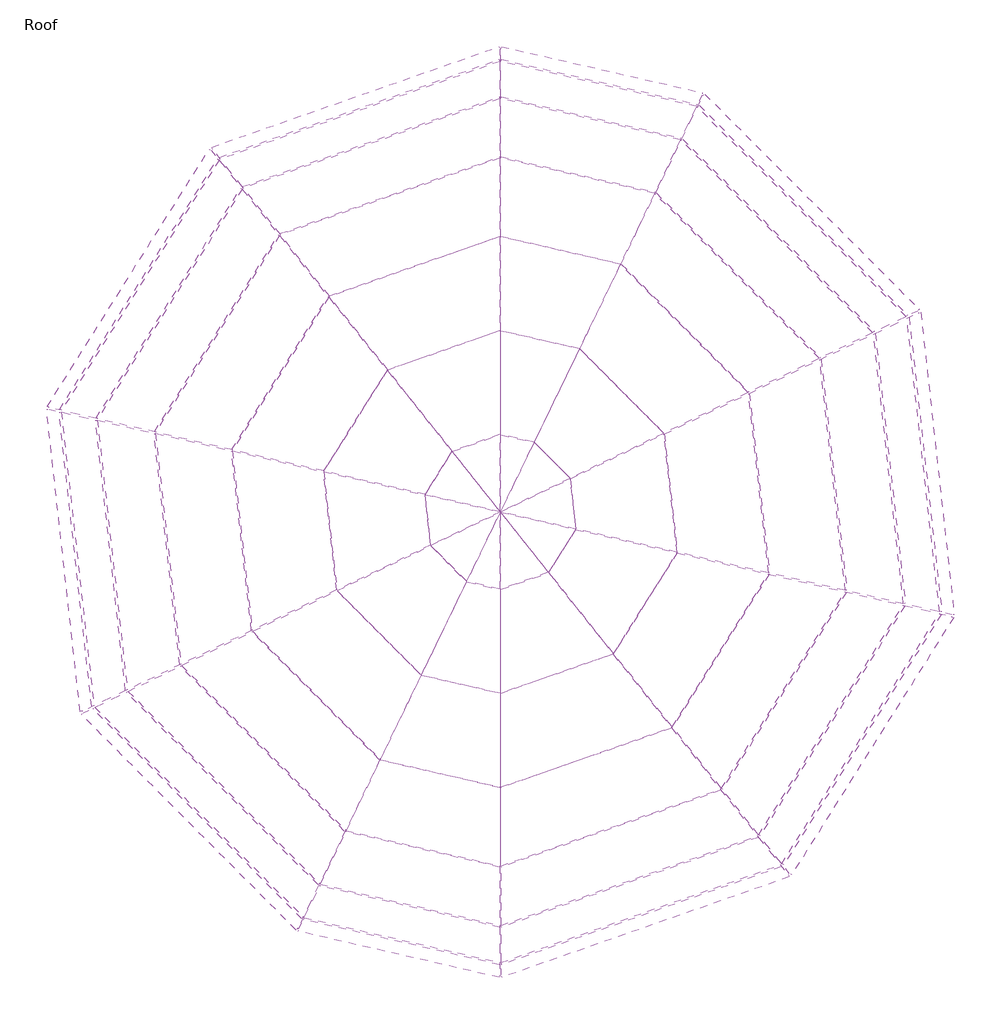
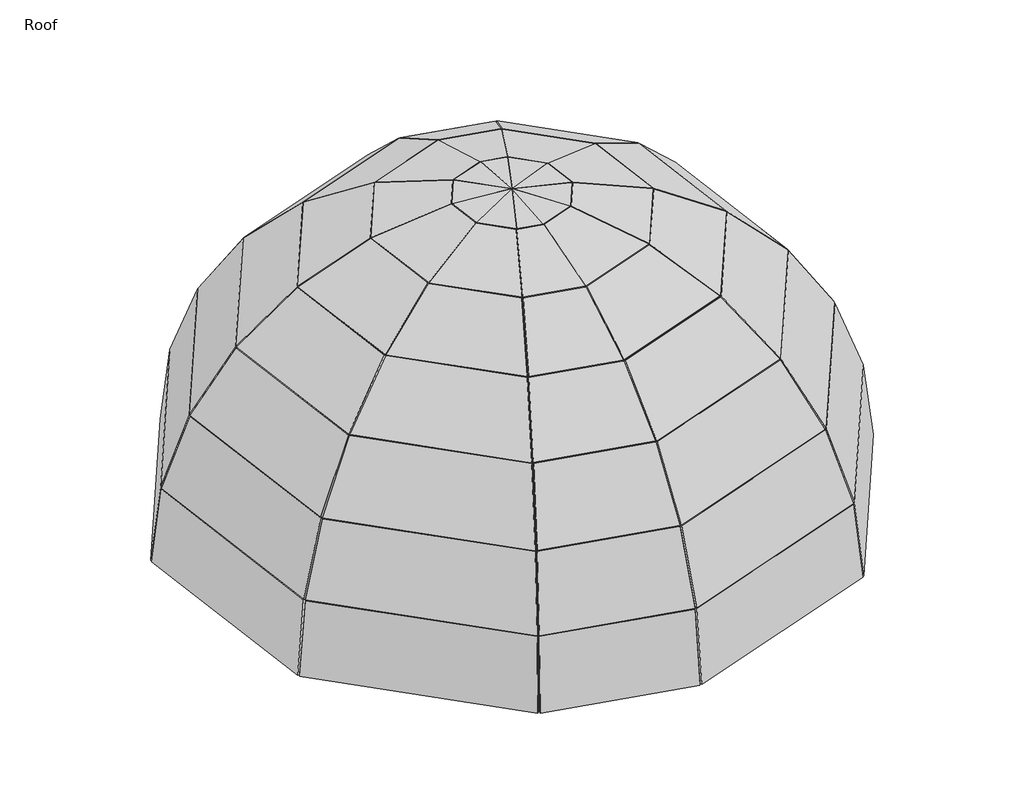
# One storey: 70 plates.
"""IFC4 building model written with IfcOpenShell, lengths in millimetres."""

import ifcopenshell
import ifcopenshell.guid

model = None  # the IFC model being written
_history = None  # IfcOwnerHistory: only IFC2X3 demands one
_inside = {}  # id of a spatial element -> (the spatial element, [elements in it])
_under = {}  # id of a project, library or spatial element -> (it, [spatial elements below it])
_declared = {}  # id of a project -> (the project, [libraries it declares])
_typed = {}  # id of a type object -> (the type object, [elements of that type])
_made_of = {}  # id of a material, layer set ... -> (it, [elements and type objects made of it])


def new_model(schema):
    """Start an empty IFC model of exactly this schema.

    Asked for "IFC4X3", IfcOpenShell would pick the latest addendum, in which some entities
    have other attributes; the version numbers below select the first issue.
    IFC2X3 requires an IfcOwnerHistory on every rooted entity: one is made here for all.
    """
    global model, _history
    if schema == "IFC4X3":
        model = ifcopenshell.file(schema_version=(4, 3, 0, 0))
    else:
        model = ifcopenshell.file(schema=schema)
    _inside.clear()
    _under.clear()
    _declared.clear()
    _typed.clear()
    _made_of.clear()
    _history = None
    if model.schema == "IFC2X3":
        org = make("IfcOrganization", Name="unknown")
        user = make(
            "IfcPersonAndOrganization",
            ThePerson=make("IfcPerson", FamilyName="unknown"),
            TheOrganization=org,
        )
        app = make(
            "IfcApplication",
            ApplicationDeveloper=org,
            Version="unknown",
            ApplicationFullName="unknown",
            ApplicationIdentifier="unknown",
        )
        _history = make(
            "IfcOwnerHistory",
            OwningUser=user,
            OwningApplication=app,
            ChangeAction="ADDED",
            CreationDate=0,
        )
    return model


def make(cls, **values):
    """One entity of the class cls with the attributes given. An attribute that is None is left unset."""
    return model.create_entity(
        cls, **{name: value for name, value in values.items() if value is not None}
    )


def rooted(cls, **values):
    """An entity with a GlobalId (a new one), such as an element, a storey or a relation."""
    return make(cls, GlobalId=ifcopenshell.guid.new(), OwnerHistory=_history, **values)


def si_unit(unit_type, name, prefix=None):
    """IfcSIUnit, for example si_unit("LENGTHUNIT", "METRE", prefix="MILLI")."""
    return make("IfcSIUnit", UnitType=unit_type, Prefix=prefix, Name=name)


def assignment(units):
    """IfcUnitAssignment: the units of a project."""
    return None if units is None else make("IfcUnitAssignment", Units=units)


def point(xyz):
    """IfcCartesianPoint."""
    return None if xyz is None else make("IfcCartesianPoint", Coordinates=xyz)


def direction(xyz):
    """IfcDirection."""
    return None if xyz is None else make("IfcDirection", DirectionRatios=xyz)


def frame(location, z_axis=None, x_axis=None):
    """IfcAxis2Placement3D, a coordinate frame: its origin and axes. An axis left out is left unset."""
    return make(
        "IfcAxis2Placement3D",
        Location=point(location),
        Axis=direction(z_axis),
        RefDirection=direction(x_axis),
    )


def origin():
    """The frame at (0, 0, 0) with its axes left unset."""
    return frame((0.0, 0.0, 0.0))


def place(relative_to, where):
    """IfcLocalPlacement: puts the frame where relative to a parent placement (None: the world)."""
    return make(
        "IfcLocalPlacement", PlacementRelTo=relative_to, RelativePlacement=where
    )


def context(
    kind, dimensions, precision=None, world=None, true_north=None, identifier=None
):
    """IfcGeometricRepresentationContext, for example the 3D "Model" context."""
    return make(
        "IfcGeometricRepresentationContext",
        ContextIdentifier=identifier,
        ContextType=kind,
        CoordinateSpaceDimension=dimensions,
        Precision=precision,
        WorldCoordinateSystem=world,
        TrueNorth=true_north,
    )


def project(units=None, contexts=None):
    """IfcProject with its units and contexts."""
    return rooted(
        "IfcProject",
        Name="project",
        RepresentationContexts=contexts,
        UnitsInContext=assignment(units),
    )


def spatial(cls, under=None, at=None, **own):
    """A site, building, storey or space (cls), placed at a placement, below another one or the project."""
    s = rooted(cls, ObjectPlacement=at, **own)
    if under is not None:
        _under.setdefault(under.id(), (under, []))[1].append(s)
    return s


def polyline(points):
    """IfcPolyline through the points."""
    return make("IfcPolyline", Points=[point(p) for p in points])


def outline(outer, holes=None, kind="AREA"):
    """IfcArbitraryClosedProfileDef: a profile drawn as a closed curve; with holes, ...WithVoids."""
    if holes is None:
        return make("IfcArbitraryClosedProfileDef", ProfileType=kind, OuterCurve=outer)
    return make(
        "IfcArbitraryProfileDefWithVoids",
        ProfileType=kind,
        OuterCurve=outer,
        InnerCurves=holes,
    )


def extrude(swept, where, along, depth):
    """IfcExtrudedAreaSolid: the profile swept, set in the frame where, extruded along a direction by depth."""
    return make(
        "IfcExtrudedAreaSolid",
        SweptArea=swept,
        Position=where,
        ExtrudedDirection=direction(along),
        Depth=depth,
    )


def shape(context_of_items, identifier, shape_type, items):
    """IfcShapeRepresentation: the items that make up one representation, for example the "Body"."""
    return make(
        "IfcShapeRepresentation",
        ContextOfItems=context_of_items,
        RepresentationIdentifier=identifier,
        RepresentationType=shape_type,
        Items=items,
    )


def source(mapping_origin, context_of_items, identifier, shape_type, items):
    """IfcRepresentationMap: a shape defined once, which mapped items show again and again."""
    return make(
        "IfcRepresentationMap",
        MappingOrigin=mapping_origin,
        MappedRepresentation=shape(context_of_items, identifier, shape_type, items),
    )


def transform(
    local_origin,
    x_axis=None,
    y_axis=None,
    z_axis=None,
    scale=None,
    scale2=None,
    scale3=None,
    uniform=True,
):
    """IfcCartesianTransformationOperator3D, or its non-uniform kind. x_axis, y_axis, z_axis: its Axis1, 2, 3."""
    if uniform:
        return make(
            "IfcCartesianTransformationOperator3D",
            Axis1=direction(x_axis),
            Axis2=direction(y_axis),
            LocalOrigin=point(local_origin),
            Scale=scale,
            Axis3=direction(z_axis),
        )
    return make(
        "IfcCartesianTransformationOperator3DnonUniform",
        Axis1=direction(x_axis),
        Axis2=direction(y_axis),
        LocalOrigin=point(local_origin),
        Scale=scale,
        Axis3=direction(z_axis),
        Scale2=scale2,
        Scale3=scale3,
    )


def mapped(mapping_source, mapping_target):
    """IfcMappedItem: shows the shape of a source again, moved by a transform."""
    return make(
        "IfcMappedItem", MappingSource=mapping_source, MappingTarget=mapping_target
    )


def made_of(thing, what):
    """Note that an element or type object is made of a material, layer set ...; save() writes the relation."""
    if what is not None:
        _made_of.setdefault(what.id(), (what, []))[1].append(thing)
    return thing


def element(
    cls,
    number,
    at=None,
    inside=None,
    cuts=None,
    type_object=None,
    material=None,
    context=None,
    identifier="Body",
    shape_type=None,
    held_by="IfcProductDefinitionShape",
    body=None,
    shapes=None,
    **own,
):
    """One element of the class cls, such as IfcWall. Its Tag is "e" and its number.

    at: its placement. inside: the storey or other place that contains it. cuts: it is an
    opening in that element (IfcRelVoidsElement). A single representation is given by context,
    identifier, shape_type and body (its items); several are given by shapes. held_by: the class
    of the entity that holds the representations. save() writes the other relations.
    """
    e = rooted(cls, Tag="e%d" % number, ObjectPlacement=at, **own)
    if body is not None:
        shapes = [shape(context, identifier, shape_type, body)]
    if shapes is not None:
        e.Representation = make(held_by, Representations=shapes)
    if inside is not None:
        _inside.setdefault(inside.id(), (inside, []))[1].append(e)
    if cuts is not None:
        rooted(
            "IfcRelVoidsElement", RelatingBuildingElement=cuts, RelatedOpeningElement=e
        )
    if type_object is not None:
        _typed.setdefault(type_object.id(), (type_object, []))[1].append(e)
    return made_of(e, material)


def aggregate(whole, parts):
    """IfcRelAggregates: a whole, such as a stair, and the parts it consists of."""
    return rooted("IfcRelAggregates", RelatingObject=whole, RelatedObjects=parts)


def save(model, path):
    """Write the relations noted so far, then the file.

    IfcRelAggregates (storeys below a building ...), IfcRelContainedInSpatialStructure (elements
    in a storey), IfcRelDefinesByType, IfcRelAssociatesMaterial and IfcRelDeclares: one each for
    every whole, place, type object, material and project.
    """
    for whole, parts in _under.values():
        aggregate(whole, parts)
    for where, things in _inside.values():
        rooted(
            "IfcRelContainedInSpatialStructure",
            RelatedElements=things,
            RelatingStructure=where,
        )
    for kind, things in _typed.values():
        rooted("IfcRelDefinesByType", RelatedObjects=things, RelatingType=kind)
    for what, things in _made_of.values():
        rooted("IfcRelAssociatesMaterial", RelatedObjects=things, RelatingMaterial=what)
    for by, libraries in _declared.values():
        rooted("IfcRelDeclares", RelatingContext=by, RelatedDefinitions=libraries)
    model.write(path)


def system_panel_glazed_518a6dcc(model_context):
    return source(origin(), model_context, "Body", "SweptSolid", [
        extrude(outline(polyline([(0.0, -1508.6830283), (0.0, 1508.6830283), (1066.0091554, 1467.6133237), (1066.0091554, -1467.6133237), (0.0, -1508.6830283)])), frame((0.0, -49.5, 0.0), z_axis=(0.0, 1.0, 0.0), x_axis=(0.0, 0.0, 1.0)), (0.0, 0.0, 1.0), 25.0),
    ])


def system_panel_glazed_70fdd375(model_context):
    return source(origin(), model_context, "Body", "SweptSolid", [
        extrude(outline(polyline([(0.0, -1022.9539556), (0.0, 1022.9539556), (1066.4364867, 995.1068757), (1066.4364867, -995.1068757), (0.0, -1022.9539556)])), frame((0.0, -49.5, 0.0), z_axis=(0.0, 1.0, 0.0), x_axis=(0.0, 0.0, 1.0)), (0.0, 0.0, 1.0), 25.0),
    ])


def system_panel_glazed_56d5725f(model_context):
    return source(origin(), model_context, "Body", "SweptSolid", [
        extrude(outline(polyline([(0.0, -1467.6133237), (0.0, 1467.6133237), (1059.9187468, 1346.640227), (1059.9187468, -1346.640227), (0.0, -1467.6133237)])), frame((0.0, -49.5, 0.0), z_axis=(0.0, 1.0, 0.0), x_axis=(0.0, 0.0, 1.0)), (0.0, 0.0, 1.0), 25.0),
    ])


def system_panel_glazed_7670c416(model_context):
    return source(origin(), model_context, "Body", "SweptSolid", [
        extrude(outline(polyline([(0.0, -995.1068757), (0.0, 995.1068757), (1063.6419132, 913.0817547), (1063.6419132, -913.0817547), (0.0, -995.1068757)])), frame((0.0, -49.5, 0.0), z_axis=(0.0, 1.0, 0.0), x_axis=(0.0, 0.0, 1.0)), (0.0, 0.0, 1.0), 25.0),
    ])


def system_panel_glazed_8b0493d8(model_context):
    return source(origin(), model_context, "Body", "SweptSolid", [
        extrude(outline(polyline([(0.0, -1346.640227), (0.0, 1346.640227), (1048.958325, 1152.3500512), (1048.958325, -1152.3500512), (0.0, -1346.640227)])), frame((0.0, -49.5, 0.0), z_axis=(0.0, 1.0, 0.0), x_axis=(0.0, 0.0, 1.0)), (0.0, 0.0, 1.0), 25.0),
    ])


def system_panel_glazed_59e38239(model_context):
    return source(origin(), model_context, "Body", "SweptSolid", [
        extrude(outline(polyline([(0.0, -913.0817547), (0.0, 913.0817547), (1058.634739, 781.344405), (1058.634739, -781.344405), (0.0, -913.0817547)])), frame((0.0, -49.5, 0.0), z_axis=(0.0, 1.0, 0.0), x_axis=(0.0, 0.0, 1.0)), (0.0, 0.0, 1.0), 25.0),
    ])


def system_panel_glazed_5a9b0819(model_context):
    return source(origin(), model_context, "Body", "SweptSolid", [
        extrude(outline(polyline([(0.0, -1152.3500512), (0.0, 1152.3500512), (1035.3734654, 895.3208171), (1035.3734654, -895.3208171), (0.0, -1152.3500512)])), frame((0.0, -49.5, 0.0), z_axis=(0.0, 1.0, 0.0), x_axis=(0.0, 0.0, 1.0)), (0.0, 0.0, 1.0), 25.0),
    ])


def system_panel_glazed_ad0206cb(model_context):
    return source(origin(), model_context, "Body", "SweptSolid", [
        extrude(outline(polyline([(0.0, -781.344405), (0.0, 781.344405), (1052.4683812, 607.0671931), (1052.4683812, -607.0671931), (0.0, -781.344405)])), frame((0.0, -49.5, 0.0), z_axis=(0.0, 1.0, 0.0), x_axis=(0.0, 0.0, 1.0)), (0.0, 0.0, 1.0), 25.0),
    ])


def system_panel_glazed_5beef723(model_context):
    return source(origin(), model_context, "Body", "SweptSolid", [
        extrude(outline(polyline([(0.0, -895.3208171), (0.0, 895.3208171), (1022.0392401, 589.5463385), (1022.0392401, -589.5463385), (0.0, -895.3208171)])), frame((0.0, -49.5, 0.0), z_axis=(0.0, 1.0, 0.0), x_axis=(0.0, 0.0, 1.0)), (0.0, 0.0, 1.0), 25.0),
    ])


def system_panel_glazed_f957fdb4(model_context):
    return source(origin(), model_context, "Body", "SweptSolid", [
        extrude(outline(polyline([(0.0, -607.0671931), (0.0, 607.0671931), (1046.4593025, 399.7385452), (1046.4593025, -399.7385452), (0.0, -607.0671931)])), frame((0.0, -49.5, 0.0), z_axis=(0.0, 1.0, 0.0), x_axis=(0.0, 0.0, 1.0)), (0.0, 0.0, 1.0), 25.0),
    ])


def system_panel_glazed_c9ff7014(model_context):
    return source(origin(), model_context, "Body", "SweptSolid", [
        extrude(outline(polyline([(0.0, -589.5463385), (0.0, 589.5463385), (1011.8817869, 251.6743371), (1011.8817869, -251.6743371), (0.0, -589.5463385)])), frame((0.0, -49.5, 0.0), z_axis=(0.0, 1.0, 0.0), x_axis=(0.0, 0.0, 1.0)), (0.0, 0.0, 1.0), 25.0),
    ])


def system_panel_glazed_714dea7d(model_context):
    return source(origin(), model_context, "Body", "SweptSolid", [
        extrude(outline(polyline([(0.0, -399.7385452), (0.0, 399.7385452), (1041.9112285, 170.6463543), (1041.9112285, -170.6463543), (0.0, -399.7385452)])), frame((0.0, -49.5, 0.0), z_axis=(0.0, 1.0, 0.0), x_axis=(0.0, 0.0, 1.0)), (0.0, 0.0, 1.0), 25.0),
    ])


def system_panel_glazed_929f0f65(model_context):
    return source(origin(), model_context, "Body", "SweptSolid", [
        extrude(outline(polyline([(0.0, -237.6758315), (165.5137224, 237.6820289), (763.3943351, -236.0989329), (762.8431207, -237.6820289), (0.0, -237.6758315)])), frame((0.0, -49.5, 0.0), z_axis=(0.0, 1.0, 0.0), x_axis=(0.0, 0.0, 1.0)), (0.0, 0.0, 1.0), 25.0),
    ])


def system_panel_glazed_81826dec(model_context):
    return source(origin(), model_context, "Body", "SweptSolid", [
        extrude(outline(polyline([(0.0, 102.984894), (425.467544, 371.9407581), (598.3886795, -371.0450478), (596.9717345, -371.9407581), (0.0, 102.984894)])), frame((0.0, -49.5, 0.0), z_axis=(0.0, 1.0, 0.0), x_axis=(0.0, 0.0, 1.0)), (0.0, 0.0, 1.0), 25.0),
    ])


def system_panel_glazed_f4372532(model_context):
    return source(origin(), model_context, "Body", "SweptSolid", [
        extrude(outline(polyline([(169.4405073, -371.8007484), (0.0, 371.9865473), (500.2473012, 316.1965354), (171.1064932, -371.9865473), (169.4405073, -371.8007484)])), frame((0.0, -49.5, 0.0), z_axis=(0.0, 1.0, 0.0), x_axis=(0.0, 0.0, 1.0)), (0.0, 0.0, 1.0), 25.0),
    ])


def system_panel_glazed_6c08feb5(model_context):
    return source(origin(), model_context, "Body", "SweptSolid", [
        extrude(outline(polyline([(1.1855973, -344.0218523), (0.0, -342.836783), (331.89583, 344.0218523), (687.896343, -11.8201387), (1.1855973, -344.0218523)])), frame((0.0, -49.5, 0.0), z_axis=(0.0, 1.0, 0.0), x_axis=(0.0, 0.0, 1.0)), (0.0, 0.0, 1.0), 25.0),
    ])


def system_panel_glazed_f5cc77c2(model_context):
    return source(origin(), model_context, "Body", "SweptSolid", [
        extrude(outline(polyline([(0.2534176, -166.3528866), (0.0, -165.2448819), (687.0025813, 166.3528866), (763.0965383, -166.3488157), (0.2534176, -166.3528866)])), frame((0.0, -49.5, 0.0), z_axis=(0.0, 1.0, 0.0), x_axis=(0.0, 0.0, 1.0)), (0.0, 0.0, 1.0), 25.0),
    ])


def system_panel_glazed_73a6ee59(model_context):
    return source(origin(), model_context, "Body", "SweptSolid", [
        extrude(outline(polyline([(0.0, 236.0989329), (0.5512144, 237.6820289), (763.3943351, 237.6758315), (597.8806127, -237.6820289), (0.0, 236.0989329)])), frame((0.0, -49.5, 0.0), z_axis=(0.0, 1.0, 0.0), x_axis=(0.0, 0.0, 1.0)), (0.0, 0.0, 1.0), 25.0),
    ])


def system_panel_glazed_6dcda1c2(model_context):
    return source(origin(), model_context, "Body", "SweptSolid", [
        extrude(outline(polyline([(0.0, 371.0450478), (1.416945, 371.9407581), (598.3886795, -102.984894), (172.9211356, -371.9407581), (0.0, 371.0450478)])), frame((0.0, -49.5, 0.0), z_axis=(0.0, 1.0, 0.0), x_axis=(0.0, 0.0, 1.0)), (0.0, 0.0, 1.0), 25.0),
    ])


def system_panel_glazed_4bd09b30(model_context):
    return source(origin(), model_context, "Body", "SweptSolid", [
        extrude(outline(polyline([(0.0, -316.1965354), (329.140808, 371.9865473), (330.8067939, 371.8007484), (500.2473012, -371.9865473), (0.0, -316.1965354)])), frame((0.0, -49.5, 0.0), z_axis=(0.0, 1.0, 0.0), x_axis=(0.0, 0.0, 1.0)), (0.0, 0.0, 1.0), 25.0),
    ])


def system_panel_glazed_12698f83(model_context):
    return source(origin(), model_context, "Body", "SweptSolid", [
        extrude(outline(polyline([(356.000513, -344.0218523), (0.0, 11.8201387), (686.7107457, 344.0218523), (687.896343, 342.836783), (356.000513, -344.0218523)])), frame((0.0, -49.5, 0.0), z_axis=(0.0, 1.0, 0.0), x_axis=(0.0, 0.0, 1.0)), (0.0, 0.0, 1.0), 25.0),
    ])


def system_panel_glazed_f8c5e75f(model_context):
    return source(origin(), model_context, "Body", "SweptSolid", [
        extrude(outline(polyline([(76.093957, -166.3528866), (0.0, 166.3488157), (762.8431207, 166.3528866), (763.0965383, 165.2448819), (76.093957, -166.3528866)])), frame((0.0, -49.5, 0.0), z_axis=(0.0, 1.0, 0.0), x_axis=(0.0, 0.0, 1.0)), (0.0, 0.0, 1.0), 25.0),
    ])


model = new_model("IFC4")

# Units and contexts
model_context = context("Model", 3, world=origin())
ifc_project = project(units=[si_unit("LENGTHUNIT", "METRE", prefix="MILLI")], contexts=[model_context])

# Site, building, storey
site = spatial("IfcSite", under=ifc_project)
building = spatial("IfcBuilding", under=site)
storey = spatial("IfcBuildingStorey", under=building, Name="Roof", Elevation=15240.0)

# Plates
placement = place(None, origin())
system_panel_glazed_shape = system_panel_glazed_518a6dcc(model_context)
element("IfcPlate", 1, ObjectType="System Panel : Glazed", at=placement, inside=storey, context=model_context, shape_type="MappedRepresentation", body=[
    mapped(system_panel_glazed_shape, transform((1113.0724853, -4394.2748653, 18288.0), x_axis=(0.9439868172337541, 0.3299831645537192, 0.0), y_axis=(-0.3279728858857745, 0.9382359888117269, -0.1102134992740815), z_axis=(-0.03636859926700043, 0.10404009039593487, 0.9939079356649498))),
])
element("IfcPlate", 2, ObjectType="System Panel : Glazed", at=placement, inside=storey, context=model_context, shape_type="MappedRepresentation", body=[
    mapped(system_panel_glazed_shape, transform((-1735.2812949, 3754.0451347, 18288.0), x_axis=(-0.9439868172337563, -0.32998316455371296, 0.0), y_axis=(0.3279728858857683, -0.9382359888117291, -0.11021349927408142), z_axis=(0.036368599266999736, -0.10404009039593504, 0.99390793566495))),
])
element("IfcPlate", 3, ObjectType="System Panel : Glazed", at=placement, inside=storey, context=model_context, shape_type="MappedRepresentation", body=[
    mapped(system_panel_glazed_shape, transform((3341.118109, -2619.7518431, 18288.0), x_axis=(0.5328281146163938, 0.8462234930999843, 0.0), y_axis=(-0.8410682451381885, 0.5295820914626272, -0.11021349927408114), z_axis=(-0.09326525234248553, 0.05872485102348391, 0.9939079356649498))),
])
element("IfcPlate", 4, ObjectType="System Panel : Glazed", at=placement, inside=storey, context=model_context, shape_type="MappedRepresentation", body=[
    mapped(system_panel_glazed_shape, transform((3978.4179267, 156.3908406, 18288.0), x_axis=(-0.11040683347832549, 0.9938864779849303, 0.0), y_axis=(-0.9878316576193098, -0.10973422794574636, -0.11021349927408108), z_axis=(-0.10953970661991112, -0.012168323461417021, 0.99390793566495))),
])
element("IfcPlate", 5, ObjectType="System Panel : Glazed", at=placement, inside=storey, context=model_context, shape_type="MappedRepresentation", body=[
    mapped(system_panel_glazed_shape, transform((2747.3924622, 2724.9888168, 18288.0), x_axis=(-0.7055534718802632, 0.7086566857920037, 0.0), y_axis=(-0.7043395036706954, -0.7012551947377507, -0.1102134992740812), z_axis=(-0.07810353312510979, -0.07776151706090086, 0.9939079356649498))),
])
element("IfcPlate", 6, ObjectType="System Panel : Glazed", at=placement, inside=storey, context=model_context, shape_type="MappedRepresentation", body=[
    mapped(system_panel_glazed_shape, transform((-3963.3269186, 1979.5221125, 18288.0), x_axis=(-0.532828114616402, -0.8462234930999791, 0.0), y_axis=(0.8410682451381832, -0.5295820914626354, -0.11021349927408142), z_axis=(0.09326525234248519, -0.05872485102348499, 0.9939079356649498))),
])
element("IfcPlate", 7, ObjectType="System Panel : Glazed", at=placement, inside=storey, context=model_context, shape_type="MappedRepresentation", body=[
    mapped(system_panel_glazed_shape, transform((-4600.6267363, -796.6205711, 18288.0), x_axis=(0.11040683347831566, -0.9938864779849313, 0.0), y_axis=(0.9878316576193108, 0.1097342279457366, -0.11021349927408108), z_axis=(0.10953970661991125, 0.012168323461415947, 0.99390793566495))),
])
element("IfcPlate", 8, ObjectType="System Panel : Glazed", at=placement, inside=storey, context=model_context, shape_type="MappedRepresentation", body=[
    mapped(system_panel_glazed_shape, transform((-3369.6012718, -3365.2185474, 18288.0), x_axis=(0.7055534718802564, -0.7086566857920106, 0.0), y_axis=(0.7043395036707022, 0.7012551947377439, -0.11021349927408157), z_axis=(0.0781035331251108, 0.07776151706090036, 0.9939079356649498))),
])
system_panel_glazed_2_shape = system_panel_glazed_70fdd375(model_context)
element("IfcPlate", 9, ObjectType="System Panel : Glazed", at=placement, inside=storey, context=model_context, shape_type="MappedRepresentation", body=[
    mapped(system_panel_glazed_2_shape, transform((685.9157544, 4023.0061332, 18288.0), x_axis=(-0.9746481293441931, 0.2237432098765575, 0.0), y_axis=(-0.22229104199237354, -0.9683223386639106, -0.11374770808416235), z_axis=(-0.025450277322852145, -0.11086399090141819, 0.9935096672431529))),
])
element("IfcPlate", 10, ObjectType="System Panel : Glazed", at=placement, inside=storey, context=model_context, shape_type="MappedRepresentation", body=[
    mapped(system_panel_glazed_2_shape, transform((-1308.124564, -4663.2358637, 18288.0), x_axis=(0.974648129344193, -0.22374320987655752, 0.0), y_axis=(0.2222910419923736, 0.9683223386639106, -0.11374770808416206), z_axis=(0.025450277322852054, 0.11086399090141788, 0.9935096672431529))),
])
system_panel_glazed_3_shape = system_panel_glazed_56d5725f(model_context)
element("IfcPlate", 11, ObjectType="System Panel : Glazed", at=placement, inside=storey, context=model_context, shape_type="MappedRepresentation", body=[
    mapped(system_panel_glazed_3_shape, transform((1074.3032255, -4283.3671764, 19347.514959), x_axis=(0.9439868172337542, 0.329983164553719, 0.0), y_axis=(-0.31189854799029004, 0.8922519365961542, -0.3265054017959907), z_axis=(-0.10774128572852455, 0.3082167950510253, 0.9451953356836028))),
])
element("IfcPlate", 12, ObjectType="System Panel : Glazed", at=placement, inside=storey, context=model_context, shape_type="MappedRepresentation", body=[
    mapped(system_panel_glazed_3_shape, transform((3241.6964961, -2557.1506142, 19347.514959), x_axis=(0.5328281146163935, 0.8462234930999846, 0.0), y_axis=(-0.7998464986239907, 0.5036266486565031, -0.32650540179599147), z_axis=(-0.27629654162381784, 0.17397125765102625, 0.9451953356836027))),
])
element("IfcPlate", 13, ObjectType="System Panel : Glazed", at=placement, inside=storey, context=model_context, shape_type="MappedRepresentation", body=[
    mapped(system_panel_glazed_3_shape, transform((3861.6475965, 143.4192964, 19347.514959), x_axis=(-0.11040683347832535, 0.9938864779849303, 0.0), y_axis=(-0.9394168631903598, -0.10435602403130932, -0.32650540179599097), z_axis=(-0.324509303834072, -0.036048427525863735, 0.9451953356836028))),
])
element("IfcPlate", 14, ObjectType="System Panel : Glazed", at=placement, inside=storey, context=model_context, shape_type="MappedRepresentation", body=[
    mapped(system_panel_glazed_3_shape, transform((2664.1333808, 2642.0943277, 19347.514959), x_axis=(-0.7055534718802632, 0.7086566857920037, 0.0), y_axis=(-0.6698189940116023, -0.6668858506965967, -0.3265054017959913), z_axis=(-0.23138023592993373, -0.230367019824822, 0.9451953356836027))),
])
element("IfcPlate", 15, ObjectType="System Panel : Glazed", at=placement, inside=storey, context=model_context, shape_type="MappedRepresentation", body=[
    mapped(system_panel_glazed_3_shape, transform((-1696.5120352, 3643.1374458, 19347.514959), x_axis=(-0.9439868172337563, -0.329983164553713, 0.0), y_axis=(0.31189854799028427, -0.892251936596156, -0.3265054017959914), z_axis=(0.10774128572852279, -0.30821679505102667, 0.9451953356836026))),
])
element("IfcPlate", 16, ObjectType="System Panel : Glazed", at=placement, inside=storey, context=model_context, shape_type="MappedRepresentation", body=[
    mapped(system_panel_glazed_3_shape, transform((-3863.9053058, 1916.9208837, 19347.514959), x_axis=(-0.532828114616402, -0.8462234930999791, 0.0), y_axis=(0.7998464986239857, -0.5036266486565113, -0.3265054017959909), z_axis=(0.2762965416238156, -0.17397125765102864, 0.9451953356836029))),
])
element("IfcPlate", 17, ObjectType="System Panel : Glazed", at=placement, inside=storey, context=model_context, shape_type="MappedRepresentation", body=[
    mapped(system_panel_glazed_3_shape, transform((-4483.8564062, -783.6490269, 19347.514959), x_axis=(0.11040683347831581, -0.9938864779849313, 0.0), y_axis=(0.9394168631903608, 0.10435602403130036, -0.32650540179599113), z_axis=(0.3245093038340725, 0.036048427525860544, 0.9451953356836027))),
])
element("IfcPlate", 18, ObjectType="System Panel : Glazed", at=placement, inside=storey, context=model_context, shape_type="MappedRepresentation", body=[
    mapped(system_panel_glazed_3_shape, transform((-3286.3421904, -3282.3240582, 19347.514959), x_axis=(0.7055534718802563, -0.7086566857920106, 0.0), y_axis=(0.6698189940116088, 0.6668858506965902, -0.32650540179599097), z_axis=(0.23138023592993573, 0.23036701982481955, 0.9451953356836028))),
])
system_panel_glazed_4_shape = system_panel_glazed_7670c416(model_context)
element("IfcPlate", 19, ObjectType="System Panel : Glazed", at=placement, inside=storey, context=model_context, shape_type="MappedRepresentation", body=[
    mapped(system_panel_glazed_4_shape, transform((658.77465, 3904.7767282, 19347.514959), x_axis=(-0.974648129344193, 0.22374320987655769, 0.0), y_axis=(-0.21074077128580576, -0.918008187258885, -0.33593049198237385), z_axis=(-0.07516216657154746, -0.3274140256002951, 0.9418867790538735))),
])
element("IfcPlate", 20, ObjectType="System Panel : Glazed", at=placement, inside=storey, context=model_context, shape_type="MappedRepresentation", body=[
    mapped(system_panel_glazed_4_shape, transform((-1280.9834597, -4545.0064587, 19347.514959), x_axis=(0.9746481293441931, -0.22374320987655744, 0.0), y_axis=(0.21074077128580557, 0.9180081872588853, -0.33593049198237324), z_axis=(0.07516216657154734, 0.3274140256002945, 0.9418867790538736))),
])
system_panel_glazed_5_shape = system_panel_glazed_8b0493d8(model_context)
element("IfcPlate", 21, ObjectType="System Panel : Glazed", at=placement, inside=storey, context=model_context, shape_type="MappedRepresentation", body=[
    mapped(system_panel_glazed_5_shape, transform((960.106217, -3956.6824172, 20349.3452147), x_axis=(0.9439868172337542, 0.32998316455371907, 0.0), y_axis=(-0.279852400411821, 0.800577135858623, -0.5298668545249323), z_axis=(-0.17484714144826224, 0.5001873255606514, 0.8480808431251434))),
])
element("IfcPlate", 22, ObjectType="System Panel : Glazed", at=placement, inside=storey, context=model_context, shape_type="MappedRepresentation", body=[
    mapped(system_panel_glazed_5_shape, transform((2948.844612, -2372.7552168, 20349.3452147), x_axis=(0.5328281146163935, 0.8462234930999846, 0.0), y_axis=(-0.717665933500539, 0.45188131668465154, -0.5298668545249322), z_axis=(-0.4483857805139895, 0.28232795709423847, 0.8480808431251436))),
])
element("IfcPlate", 23, ObjectType="System Panel : Glazed", at=placement, inside=storey, context=model_context, shape_type="MappedRepresentation", body=[
    mapped(system_panel_glazed_5_shape, transform((3517.6941019, 105.2108923, 20349.3452147), x_axis=(-0.11040683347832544, 0.9938864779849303, 0.0), y_axis=(-0.8428960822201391, -0.09363392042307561, -0.5298668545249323), z_axis=(-0.5266275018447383, -0.05850092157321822, 0.8480808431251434))),
])
element("IfcPlate", 24, ObjectType="System Panel : Glazed", at=placement, inside=storey, context=model_context, shape_type="MappedRepresentation", body=[
    mapped(system_panel_glazed_5_shape, transform((2418.8891311, 2397.9240047, 20349.3452147), x_axis=(-0.7055534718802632, 0.7086566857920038, 0.0), y_axis=(-0.6009981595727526, -0.5983663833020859, -0.529866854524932), z_axis=(-0.3754936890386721, -0.37384939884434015, 0.8480808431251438))),
])
element("IfcPlate", 25, ObjectType="System Panel : Glazed", at=placement, inside=storey, context=model_context, shape_type="MappedRepresentation", body=[
    mapped(system_panel_glazed_5_shape, transform((-1582.3150266, 3316.4526867, 20349.3452147), x_axis=(-0.9439868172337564, -0.32998316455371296, 0.0), y_axis=(0.27985240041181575, -0.8005771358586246, -0.5298668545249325), z_axis=(0.17484714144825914, -0.5001873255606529, 0.8480808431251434))),
])
element("IfcPlate", 26, ObjectType="System Panel : Glazed", at=placement, inside=storey, context=model_context, shape_type="MappedRepresentation", body=[
    mapped(system_panel_glazed_5_shape, transform((-3571.0534216, 1732.5254863, 20349.3452147), x_axis=(-0.532828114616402, -0.8462234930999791, 0.0), y_axis=(0.7176659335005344, -0.45188131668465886, -0.5298668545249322), z_axis=(0.4483857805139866, -0.28232795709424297, 0.8480808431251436))),
])
element("IfcPlate", 27, ObjectType="System Panel : Glazed", at=placement, inside=storey, context=model_context, shape_type="MappedRepresentation", body=[
    mapped(system_panel_glazed_5_shape, transform((-4139.9029115, -745.4406228, 20349.3452147), x_axis=(0.11040683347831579, -0.9938864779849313, 0.0), y_axis=(0.8428960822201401, 0.09363392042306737, -0.5298668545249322), z_axis=(0.5266275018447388, 0.058500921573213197, 0.8480808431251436))),
])
element("IfcPlate", 28, ObjectType="System Panel : Glazed", at=placement, inside=storey, context=model_context, shape_type="MappedRepresentation", body=[
    mapped(system_panel_glazed_5_shape, transform((-3041.0979407, -3038.1537353, 20349.3452147), x_axis=(0.7055534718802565, -0.7086566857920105, 0.0), y_axis=(0.600998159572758, 0.5983663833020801, -0.5298668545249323), z_axis=(0.3754936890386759, 0.37384939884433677, 0.8480808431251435))),
])
system_panel_glazed_6_shape = system_panel_glazed_59e38239(model_context)
element("IfcPlate", 29, ObjectType="System Panel : Glazed", at=placement, inside=storey, context=model_context, shape_type="MappedRepresentation", body=[
    mapped(system_panel_glazed_6_shape, transform((578.8290194, 3556.5254476, 20349.3452147), x_axis=(-0.9746481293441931, 0.22374320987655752, 0.0), y_axis=(-0.1880179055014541, -0.8190250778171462, -0.5420767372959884), z_axis=(-0.12128598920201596, -0.5283340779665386, 0.8403289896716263))),
])
element("IfcPlate", 30, ObjectType="System Panel : Glazed", at=placement, inside=storey, context=model_context, shape_type="MappedRepresentation", body=[
    mapped(system_panel_glazed_6_shape, transform((-1201.037829, -4196.7551781, 20349.3452147), x_axis=(0.9746481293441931, -0.2237432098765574, 0.0), y_axis=(0.1880179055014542, 0.8190250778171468, -0.5420767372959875), z_axis=(0.12128598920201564, 0.5283340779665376, 0.8403289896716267))),
])
system_panel_glazed_7_shape = system_panel_glazed_5a9b0819(model_context)
element("IfcPlate", 31, ObjectType="System Panel : Glazed", at=placement, inside=storey, context=model_context, shape_type="MappedRepresentation", body=[
    mapped(system_panel_glazed_7_shape, transform((776.6988524, -3432.006758, 21238.9466754), x_axis=(0.9439868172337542, 0.32998316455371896, 0.0), y_axis=(-0.23231958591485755, 0.6645994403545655, -0.7101656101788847), z_axis=(-0.23434269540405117, 0.6703869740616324, 0.7040346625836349))),
])
element("IfcPlate", 32, ObjectType="System Panel : Glazed", at=placement, inside=storey, context=model_context, shape_type="MappedRepresentation", body=[
    mapped(system_panel_glazed_7_shape, transform((2478.5066147, -2076.6049558, 21238.9466754), x_axis=(0.5328281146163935, 0.8462234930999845, 0.0), y_axis=(-0.5957706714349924, 0.3751294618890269, -0.7101656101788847), z_axis=(-0.6009588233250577, 0.3783962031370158, 0.7040346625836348))),
])
element("IfcPlate", 33, ObjectType="System Panel : Glazed", at=placement, inside=storey, context=model_context, shape_type="MappedRepresentation", body=[
    mapped(system_panel_glazed_7_shape, transform((2965.2837996, 43.8458636, 21238.9466754), x_axis=(-0.11040683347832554, 0.9938864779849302, 0.0), y_axis=(-0.6997305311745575, -0.07773023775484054, -0.7101656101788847), z_axis=(-0.7058239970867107, -0.07840713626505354, 0.7040346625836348))),
])
element("IfcPlate", 34, ObjectType="System Panel : Glazed", at=placement, inside=storey, context=model_context, shape_type="MappedRepresentation", body=[
    mapped(system_panel_glazed_7_shape, transform((2025.0119, 2005.7715655, 21238.9466754), x_axis=(-0.7055534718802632, 0.7086566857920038, 0.0), y_axis=(-0.49891887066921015, -0.4967341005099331, -0.7101656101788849), z_axis=(-0.5032636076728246, -0.5010598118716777, 0.7040346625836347))),
])
element("IfcPlate", 35, ObjectType="System Panel : Glazed", at=placement, inside=storey, context=model_context, shape_type="MappedRepresentation", body=[
    mapped(system_panel_glazed_7_shape, transform((-1398.907662, 2791.7770275, 21238.9466754), x_axis=(-0.9439868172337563, -0.3299831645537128, 0.0), y_axis=(0.23231958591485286, -0.6645994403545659, -0.7101656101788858), z_axis=(0.23434269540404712, -0.6703869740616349, 0.7040346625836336))),
])
element("IfcPlate", 36, ObjectType="System Panel : Glazed", at=placement, inside=storey, context=model_context, shape_type="MappedRepresentation", body=[
    mapped(system_panel_glazed_7_shape, transform((-3100.7154243, 1436.3752253, 21238.9466754), x_axis=(-0.532828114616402, -0.8462234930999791, 0.0), y_axis=(0.595770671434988, -0.37512946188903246, -0.7101656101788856), z_axis=(0.6009588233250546, -0.3783962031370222, 0.7040346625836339))),
])
element("IfcPlate", 37, ObjectType="System Panel : Glazed", at=placement, inside=storey, context=model_context, shape_type="MappedRepresentation", body=[
    mapped(system_panel_glazed_7_shape, transform((-3587.4926093, -684.0755941, 21238.9466754), x_axis=(0.11040683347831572, -0.9938864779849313, 0.0), y_axis=(0.6997305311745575, 0.07773023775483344, -0.7101656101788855), z_axis=(0.7058239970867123, 0.07840713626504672, 0.704034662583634))),
])
element("IfcPlate", 38, ObjectType="System Panel : Glazed", at=placement, inside=storey, context=model_context, shape_type="MappedRepresentation", body=[
    mapped(system_panel_glazed_7_shape, transform((-2647.2207096, -2646.0012961, 21238.9466754), x_axis=(0.7055534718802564, -0.7086566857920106, 0.0), y_axis=(0.49891887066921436, 0.4967341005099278, -0.7101656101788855), z_axis=(0.50326360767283, 0.5010598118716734, 0.704034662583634))),
])
system_panel_glazed_8_shape = system_panel_glazed_ad0206cb(model_context)
element("IfcPlate", 39, ObjectType="System Panel : Glazed", at=placement, inside=storey, context=model_context, shape_type="MappedRepresentation", body=[
    mapped(system_panel_glazed_8_shape, transform((450.4314579, 2997.2126388, 21238.9466754), x_axis=(-0.974648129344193, 0.22374320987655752, 0.0), y_axis=(-0.1549643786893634, -0.6750405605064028, -0.7213225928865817), z_axis=(-0.16139103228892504, -0.7030357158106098, 0.6925992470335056))),
])
element("IfcPlate", 40, ObjectType="System Panel : Glazed", at=placement, inside=storey, context=model_context, shape_type="MappedRepresentation", body=[
    mapped(system_panel_glazed_8_shape, transform((-1072.6402675, -3637.4423694, 21238.9466754), x_axis=(0.9746481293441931, -0.22374320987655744, 0.0), y_axis=(0.15496437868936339, 0.675040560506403, -0.7213225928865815), z_axis=(0.16139103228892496, 0.7030357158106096, 0.6925992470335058))),
])
system_panel_glazed_9_shape = system_panel_glazed_5beef723(model_context)
element("IfcPlate", 41, ObjectType="System Panel : Glazed", at=placement, inside=storey, context=model_context, shape_type="MappedRepresentation", body=[
    mapped(system_panel_glazed_9_shape, transform((534.0666437, -2737.9058735, 21967.8854838), x_axis=(0.9439868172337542, 0.329983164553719, 0.0), y_axis=(-0.17066431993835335, 0.4882214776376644, -0.8558700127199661), z_axis=(-0.2824226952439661, 0.8079300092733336, 0.5171909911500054))),
])
element("IfcPlate", 42, ObjectType="System Panel : Glazed", at=placement, inside=storey, context=model_context, shape_type="MappedRepresentation", body=[
    mapped(system_panel_glazed_9_shape, transform((1856.2897952, -1684.8235677, 21967.8854838), x_axis=(0.5328281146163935, 0.8462234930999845, 0.0), y_axis=(-0.43765916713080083, 0.2755739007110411, -0.8558700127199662), z_axis=(-0.7242573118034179, 0.4560316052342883, 0.5171909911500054))),
])
element("IfcPlate", 43, ObjectType="System Panel : Glazed", at=placement, inside=storey, context=model_context, shape_type="MappedRepresentation", body=[
    mapped(system_panel_glazed_9_shape, transform((2234.4923618, -37.3348048, 21967.8854838), x_axis=(-0.11040683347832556, 0.9938864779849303, 0.0), y_axis=(-0.5140291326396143, -0.057101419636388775, -0.8558700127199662), z_axis=(-0.8506376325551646, -0.09449389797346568, 0.5171909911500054))),
])
element("IfcPlate", 44, ObjectType="System Panel : Glazed", at=placement, inside=storey, context=model_context, shape_type="MappedRepresentation", body=[
    mapped(system_panel_glazed_9_shape, transform((1503.9461145, 1486.9875317, 21967.8854838), x_axis=(-0.7055534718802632, 0.7086566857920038, 0.0), y_axis=(-0.3665108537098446, -0.364905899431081, -0.8558700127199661), z_axis=(-0.6065180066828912, -0.603862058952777, 0.5171909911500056))),
])
element("IfcPlate", 45, ObjectType="System Panel : Glazed", at=placement, inside=storey, context=model_context, shape_type="MappedRepresentation", body=[
    mapped(system_panel_glazed_9_shape, transform((-1156.2754534, 2097.676143, 21967.8854838), x_axis=(-0.9439868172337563, -0.3299831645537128, 0.0), y_axis=(0.17066431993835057, -0.488221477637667, -0.8558700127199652), z_axis=(0.2824226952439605, -0.8079300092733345, 0.517190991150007))),
])
element("IfcPlate", 46, ObjectType="System Panel : Glazed", at=placement, inside=storey, context=model_context, shape_type="MappedRepresentation", body=[
    mapped(system_panel_glazed_9_shape, transform((-2478.4986049, 1044.5938372, 21967.8854838), x_axis=(-0.5328281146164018, -0.8462234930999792, 0.0), y_axis=(0.4376591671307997, -0.2755739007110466, -0.855870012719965), z_axis=(0.7242573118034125, -0.45603160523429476, 0.5171909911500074))),
])
element("IfcPlate", 47, ObjectType="System Panel : Glazed", at=placement, inside=storey, context=model_context, shape_type="MappedRepresentation", body=[
    mapped(system_panel_glazed_9_shape, transform((-2856.7011714, -602.8949257, 21967.8854838), x_axis=(0.11040683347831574, -0.9938864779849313, 0.0), y_axis=(0.5140291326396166, 0.057101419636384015, -0.855870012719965), z_axis=(0.8506376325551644, 0.0944938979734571, 0.5171909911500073))),
])
element("IfcPlate", 48, ObjectType="System Panel : Glazed", at=placement, inside=storey, context=model_context, shape_type="MappedRepresentation", body=[
    mapped(system_panel_glazed_9_shape, transform((-2126.1549241, -2127.2172623, 21967.8854838), x_axis=(0.7055534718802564, -0.7086566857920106, 0.0), y_axis=(0.36651085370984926, 0.36490589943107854, -0.855870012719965), z_axis=(0.6065180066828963, 0.6038620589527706, 0.5171909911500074))),
])
system_panel_glazed_10_shape = system_panel_glazed_f957fdb4(model_context)
element("IfcPlate", 49, ObjectType="System Panel : Glazed", at=placement, inside=storey, context=model_context, shape_type="MappedRepresentation", body=[
    mapped(system_panel_glazed_10_shape, transform((280.5724994, 2257.2897771, 21967.8854838), x_axis=(-0.974648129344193, 0.2237432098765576, 0.0), y_axis=(-0.1130175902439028, -0.49231609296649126, -0.8630480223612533), z_axis=(-0.19310113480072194, -0.8411681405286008, 0.5051218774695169))),
])
element("IfcPlate", 50, ObjectType="System Panel : Glazed", at=placement, inside=storey, context=model_context, shape_type="MappedRepresentation", body=[
    mapped(system_panel_glazed_10_shape, transform((-902.781309, -2897.5195076, 21967.8854838), x_axis=(0.9746481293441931, -0.22374320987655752, 0.0), y_axis=(0.11301759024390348, 0.4923160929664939, -0.8630480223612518), z_axis=(0.19310113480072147, 0.8411681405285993, 0.5051218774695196))),
])
system_panel_glazed_11_shape = system_panel_glazed_c9ff7014(model_context)
element("IfcPlate", 51, ObjectType="System Panel : Glazed", at=placement, inside=storey, context=model_context, shape_type="MappedRepresentation", body=[
    mapped(system_panel_glazed_11_shape, transform((245.4195669, -1912.1697008, 22496.4749713), x_axis=(0.9439868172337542, 0.32998316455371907, 0.0), y_axis=(-0.09765688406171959, 0.27936822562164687, -0.9552049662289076), z_axis=(-0.31520155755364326, 0.9017008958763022, 0.2959450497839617))),
])
element("IfcPlate", 52, ObjectType="System Panel : Glazed", at=placement, inside=storey, context=model_context, shape_type="MappedRepresentation", body=[
    mapped(system_panel_glazed_11_shape, transform((1116.0704027, -1218.7413724, 22496.4749713), x_axis=(0.5328281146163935, 0.8462234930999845, 0.0), y_axis=(-0.25043565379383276, 0.1576878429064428, -0.9552049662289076), z_axis=(-0.8083168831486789, 0.5089600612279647, 0.2959450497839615))),
])
element("IfcPlate", 53, ObjectType="System Panel : Glazed", at=placement, inside=storey, context=model_context, shape_type="MappedRepresentation", body=[
    mapped(system_panel_glazed_11_shape, transform((1365.1073223, -133.9112765, 22496.4749713), x_axis=(-0.11040683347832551, 0.9938864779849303, 0.0), y_axis=(-0.29413578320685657, -0.03267435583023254, -0.9552049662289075), z_axis=(-0.9493652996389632, -0.10546115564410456, 0.29594504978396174))),
])
element("IfcPlate", 54, ObjectType="System Panel : Glazed", at=placement, inside=storey, context=model_context, shape_type="MappedRepresentation", body=[
    mapped(system_panel_glazed_11_shape, transform((884.0609119, 869.8168119, 22496.4749713), x_axis=(-0.7055534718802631, 0.7086566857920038, 0.0), y_axis=(-0.20972343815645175, -0.2088050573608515, -0.9552049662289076), z_axis=(-0.6769123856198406, -0.6739481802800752, 0.29594504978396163))),
])
element("IfcPlate", 55, ObjectType="System Panel : Glazed", at=placement, inside=storey, context=model_context, shape_type="MappedRepresentation", body=[
    mapped(system_panel_glazed_11_shape, transform((-867.6283765, 1271.9399703, 22496.4749713), x_axis=(-0.9439868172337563, -0.3299831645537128, 0.0), y_axis=(0.097656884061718, -0.27936822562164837, -0.9552049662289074), z_axis=(0.3152015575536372, -0.901700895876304, 0.2959450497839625))),
])
element("IfcPlate", 56, ObjectType="System Panel : Glazed", at=placement, inside=storey, context=model_context, shape_type="MappedRepresentation", body=[
    mapped(system_panel_glazed_11_shape, transform((-1738.2792123, 578.5116419, 22496.4749713), x_axis=(-0.5328281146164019, -0.8462234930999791, 0.0), y_axis=(0.2504356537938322, -0.1576878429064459, -0.9552049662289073), z_axis=(0.8083168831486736, -0.5089600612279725, 0.2959450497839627))),
])
element("IfcPlate", 57, ObjectType="System Panel : Glazed", at=placement, inside=storey, context=model_context, shape_type="MappedRepresentation", body=[
    mapped(system_panel_glazed_11_shape, transform((-1987.3161319, -506.318454, 22496.4749713), x_axis=(0.11040683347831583, -0.9938864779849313, 0.0), y_axis=(0.29413578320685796, 0.03267435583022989, -0.9552049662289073), z_axis=(0.949365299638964, 0.10546115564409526, 0.2959450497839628))),
])
element("IfcPlate", 58, ObjectType="System Panel : Glazed", at=placement, inside=storey, context=model_context, shape_type="MappedRepresentation", body=[
    mapped(system_panel_glazed_11_shape, transform((-1506.2697215, -1510.0465424, 22496.4749713), x_axis=(0.7055534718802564, -0.7086566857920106, 0.0), y_axis=(0.20972343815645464, 0.20880505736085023, -0.9552049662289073), z_axis=(0.6769123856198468, 0.6739481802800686, 0.2959450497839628))),
])
system_panel_glazed_12_shape = system_panel_glazed_714dea7d(model_context)
element("IfcPlate", 59, ObjectType="System Panel : Glazed", at=placement, inside=storey, context=model_context, shape_type="MappedRepresentation", body=[
    mapped(system_panel_glazed_12_shape, transform((78.5000205, 1377.0415515, 22496.4749713), x_axis=(-0.9746481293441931, 0.2237432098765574, 0.0), y_axis=(-0.0643072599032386, -0.2801289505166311, -0.9578060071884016), z_axis=(-0.21430259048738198, -0.9335238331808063, 0.2874154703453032))),
])
element("IfcPlate", 60, ObjectType="System Panel : Glazed", at=placement, inside=storey, context=model_context, shape_type="MappedRepresentation", body=[
    mapped(system_panel_glazed_12_shape, transform((-700.7088302, -2017.271282, 22496.4749713), x_axis=(0.9746481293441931, -0.22374320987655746, 0.0), y_axis=(0.06430725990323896, 0.2801289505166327, -0.9578060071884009), z_axis=(0.2143025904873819, 0.9335238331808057, 0.28741547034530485))),
])
system_panel_glazed_13_shape = system_panel_glazed_929f0f65(model_context)
element("IfcPlate", 61, ObjectType="System Panel : Glazed", at=placement, inside=storey, context=model_context, shape_type="MappedRepresentation", body=[
    mapped(system_panel_glazed_13_shape, transform((-73.5302458, -1082.2214456, 22789.0095239), x_axis=(0.9995722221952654, 0.0024480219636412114, -0.02914412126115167), y_axis=(-0.0292467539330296, 0.08366654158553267, -0.9960645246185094), z_axis=(0.0, 0.9964908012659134, 0.08370234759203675))),
])
system_panel_glazed_14_shape = system_panel_glazed_81826dec(model_context)
element("IfcPlate", 62, ObjectType="System Panel : Glazed", at=placement, inside=storey, context=model_context, shape_type="MappedRepresentation", body=[
    mapped(system_panel_glazed_14_shape, transform((61.3552805, -917.0724918, 22803.65175), x_axis=(0.9971834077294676, 0.0035519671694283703, -0.07491752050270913), y_axis=(-0.07500167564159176, 0.047225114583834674, -0.9960645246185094), z_axis=(0.0, 0.9988779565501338, 0.04735850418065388))),
])
system_panel_glazed_15_shape = system_panel_glazed_f4372532(model_context)
element("IfcPlate", 63, ObjectType="System Panel : Glazed", at=placement, inside=storey, context=model_context, shape_type="MappedRepresentation", body=[
    mapped(system_panel_glazed_15_shape, transform((61.7079499, -490.4393179, 22828.7027936), x_axis=(0.9961125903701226, -0.0008653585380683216, -0.08808495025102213), y_axis=(-0.08808920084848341, -0.00978547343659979, -0.9960645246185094), z_axis=(0.0, 0.9999517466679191, -0.009823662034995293))),
])
system_panel_glazed_16_shape = system_panel_glazed_6c08feb5(model_context)
element("IfcPlate", 64, ObjectType="System Panel : Glazed", at=placement, inside=storey, context=model_context, shape_type="MappedRepresentation", body=[
    mapped(system_panel_glazed_16_shape, transform((33.3326958, -320.3795738, 22838.2973984), x_axis=(0.9980255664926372, -0.003935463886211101, -0.06268557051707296), y_axis=(-0.06280898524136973, -0.06253394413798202, -0.9960645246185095), z_axis=(0.0, 0.9980350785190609, -0.06265765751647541))),
])
system_panel_glazed_17_shape = system_panel_glazed_f5cc77c2(model_context)
element("IfcPlate", 65, ObjectType="System Panel : Glazed", at=placement, inside=storey, context=model_context, shape_type="MappedRepresentation", body=[
    mapped(system_panel_glazed_17_shape, transform((-144.7862899, -318.1126259, 22856.6247664), x_axis=(0.9998154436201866, -0.0016080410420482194, -0.019144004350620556), y_axis=(-0.019211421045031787, -0.08368689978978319, -0.9963068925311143), z_axis=(0.0, 0.9964908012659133, -0.08370234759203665))),
])
system_panel_glazed_18_shape = system_panel_glazed_73a6ee59(model_context)
element("IfcPlate", 66, ObjectType="System Panel : Glazed", at=placement, inside=storey, context=model_context, shape_type="MappedRepresentation", body=[
    mapped(system_panel_glazed_18_shape, transform((-548.6785639, -318.7237176, 22852.9074219), x_axis=(0.9995722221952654, 0.0024480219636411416, 0.02914412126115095), y_axis=(0.02924675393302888, -0.08366654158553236, -0.9960645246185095), z_axis=(0.0, 0.9964908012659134, -0.08370234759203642))),
])
system_panel_glazed_19_shape = system_panel_glazed_6dcda1c2(model_context)
element("IfcPlate", 67, ObjectType="System Panel : Glazed", at=placement, inside=storey, context=model_context, shape_type="MappedRepresentation", body=[
    mapped(system_panel_glazed_19_shape, transform((-683.5640901, -320.8745001, 22831.9905428), x_axis=(0.9971834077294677, 0.0035519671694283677, 0.07491752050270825), y_axis=(0.0750016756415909, -0.047225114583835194, -0.9960645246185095), z_axis=(0.0, 0.9988779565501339, -0.047358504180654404))),
])
system_panel_glazed_20_shape = system_panel_glazed_4bd09b30(model_context)
element("IfcPlate", 68, ObjectType="System Panel : Glazed", at=placement, inside=storey, context=model_context, shape_type="MappedRepresentation", body=[
    mapped(system_panel_glazed_20_shape, transform((-683.9167595, -650.0135753, 22823.7885332), x_axis=(0.9961125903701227, -0.0008653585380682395, 0.0880849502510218), y_axis=(0.08808920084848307, 0.0097854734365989, -0.9960645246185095), z_axis=(0.0, 0.9999517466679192, 0.0098236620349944))),
])
system_panel_glazed_21_shape = system_panel_glazed_12698f83(model_context)
element("IfcPlate", 69, ObjectType="System Panel : Glazed", at=placement, inside=storey, context=model_context, shape_type="MappedRepresentation", body=[
    mapped(system_panel_glazed_21_shape, transform((-655.5415054, -1006.3948374, 22795.195425), x_axis=(0.9980255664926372, -0.0039354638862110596, 0.06268557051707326), y_axis=(0.06280898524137, 0.06253394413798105, -0.9960645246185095), z_axis=(0.0, 0.998035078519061, 0.06265765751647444))),
])
system_panel_glazed_22_shape = system_panel_glazed_f8c5e75f(model_context)
element("IfcPlate", 70, ObjectType="System Panel : Glazed", at=placement, inside=storey, context=model_context, shape_type="MappedRepresentation", body=[
    mapped(system_panel_glazed_22_shape, transform((-477.4225197, -1082.5357855, 22792.7517947), x_axis=(0.9998154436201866, -0.0016080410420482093, 0.01914400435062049), y_axis=(0.019211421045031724, 0.08368689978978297, -0.9963068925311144), z_axis=(0.0, 0.9964908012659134, 0.08370234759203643))),
])

save(model, "model.ifc")
